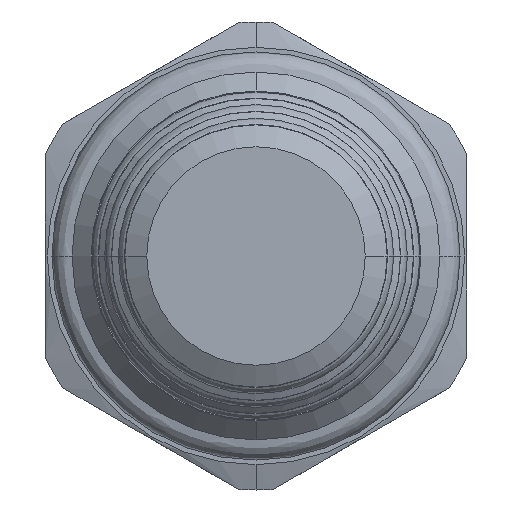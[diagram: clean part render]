
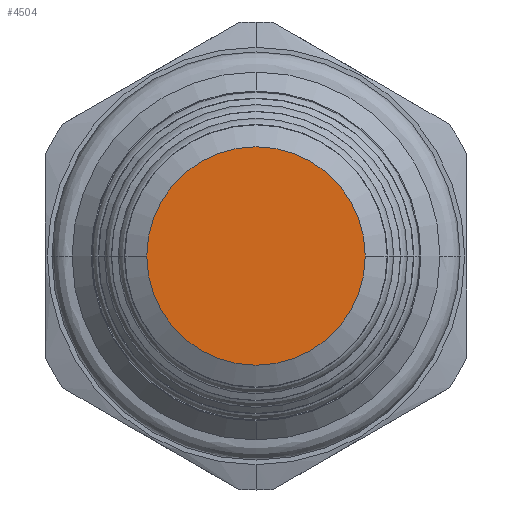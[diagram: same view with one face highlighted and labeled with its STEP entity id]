
A CAD part, front view. The second image highlights one B-rep face of the part: STEP entity #4504.
In plain terms, the highlighted planar face has unit normal (0, -1, 0).
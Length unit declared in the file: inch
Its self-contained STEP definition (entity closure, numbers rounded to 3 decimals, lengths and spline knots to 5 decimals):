
#864=CARTESIAN_POINT('',(0.,-2.45827,0.));
#865=DIRECTION('',(0.,1.,0.));
#866=DIRECTION('',(1.,0.,0.));
#867=AXIS2_PLACEMENT_3D('',#864,#865,#866);
#869=CARTESIAN_POINT('',(0.,-2.45827,0.));
#870=DIRECTION('',(0.,1.,0.));
#871=DIRECTION('',(-1.,0.,0.));
#872=AXIS2_PLACEMENT_3D('',#869,#870,#871);
#2741=CARTESIAN_POINT('',(0.25904,-2.45827,0.));
#2742=CARTESIAN_POINT('',(-0.25904,-2.45827,0.));
#2743=VERTEX_POINT('',#2741);
#2744=VERTEX_POINT('',#2742);
#4494=CARTESIAN_POINT('',(0.,-2.45827,0.));
#4495=DIRECTION('',(0.,1.,0.));
#4496=DIRECTION('',(1.,0.,0.));
#4497=AXIS2_PLACEMENT_3D('',#4494,#4495,#4496);
#4498=PLANE('',#4497);
#4499=ORIENTED_EDGE('',*,*,#4484,.T.);
#4501=ORIENTED_EDGE('',*,*,#4500,.T.);
#4502=EDGE_LOOP('',(#4499,#4501));
#4503=FACE_OUTER_BOUND('',#4502,.F.);
#4504=ADVANCED_FACE('',(#4503),#4498,.F.);
#868=CIRCLE('',#867,0.25904);
#873=CIRCLE('',#872,0.25904);
#4484=EDGE_CURVE('',#2743,#2744,#868,.T.);
#4500=EDGE_CURVE('',#2744,#2743,#873,.T.);
